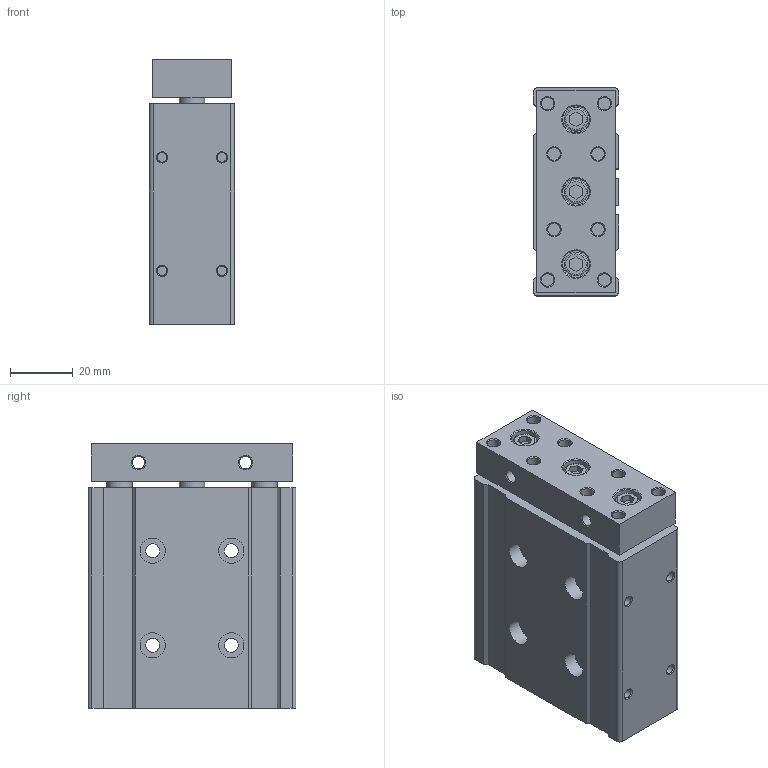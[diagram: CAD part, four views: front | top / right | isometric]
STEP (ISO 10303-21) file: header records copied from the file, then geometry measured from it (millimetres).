
FILE_DESCRIPTION((''),'2;1');
FILE_NAME('I:\3D電子目錄\氣缸\TB(U)\TB(U)16\TB(U)16\TB(U)16x25.stp','2007-08-06T08:09:47',('Administrator'),(''),'Autodesk Inventor 2008','Autodesk Inventor 2008','');
FILE_SCHEMA(('AUTOMOTIVE_DESIGN { 1 0 10303 214 1 1 1 1 }'));
Length unit declared in the file: millimetre
Products named in the file (1): TB(U)16X25
Bounding box: 27 x 66 x 84 mm (x, y, z)
Volume: 131065.4 mm3; surface area: 29137.6 mm2
Topology: 1 solids, 1 shells, 182 faces, 392 edges, 250 vertices
Faces by surface type: plane 84, cylinder 52, cone 35, bspline 8, torus 3
Full cylindrical faces by diameter (mm): 3 x4, 4 x10, 4.4 x4, 5 x6, 7.5 x3, 8 x13, 8.5 x3, 15 x2, 18 x1
Entity records: 4600 total; most frequent: CARTESIAN_POINT 809, DIRECTION 800, ORIENTED_EDGE 600, EDGE_LOOP 340, AXIS2_PLACEMENT_3D 325, EDGE_CURVE 300, VERTEX_POINT 246, FACE_OUTER_BOUND 182
